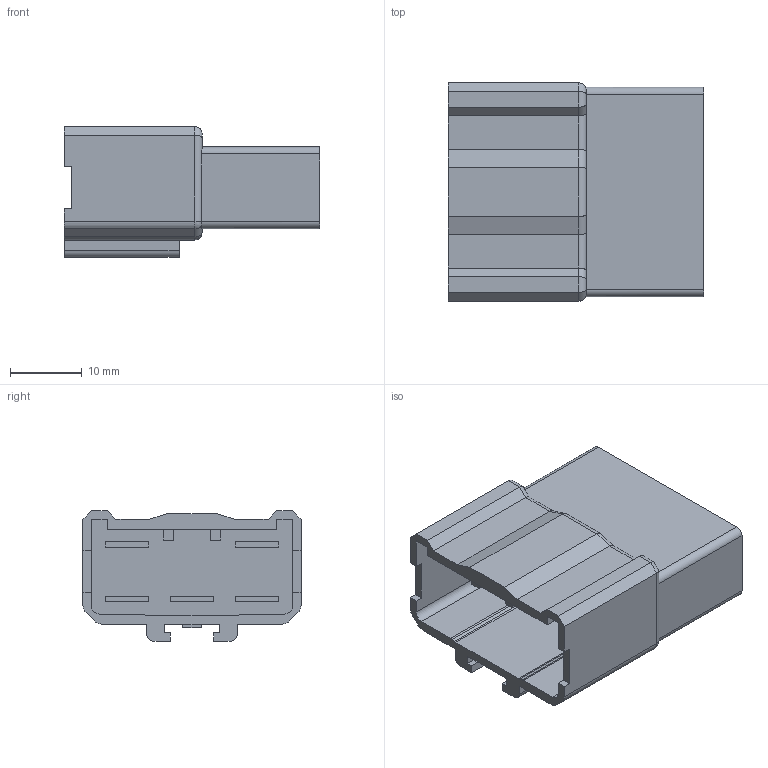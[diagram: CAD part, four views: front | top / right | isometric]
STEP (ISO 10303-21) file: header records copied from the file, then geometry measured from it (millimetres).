
FILE_DESCRIPTION(('CATIA V5 STEP Exchange'),'2;1');
FILE_NAME('N:\C-DAM_MyDesk\ENV\900093\6098-0216.stp','2013-04-04T06:23:55+00:00',('none'),('none'),'CATIA Version 5 Release 20 SP 4 (IN-10)','CATIA V5 STEP AP203','none');
FILE_SCHEMA(('CONFIG_CONTROL_DESIGN'));
Length unit declared in the file: millimetre
Products named in the file (1): 6098-0216
Bounding box: 35.6 x 30.4 x 18.2 mm (x, y, z)
Volume: 8038.2 mm3; surface area: 6013.2 mm2
Topology: 1 solids, 1 shells, 161 faces, 424 edges, 276 vertices
Faces by surface type: plane 125, cylinder 32, revolution 4
Entity records: 4718 total; most frequent: CARTESIAN_POINT 928, ORIENTED_EDGE 848, DIRECTION 628, EDGE_CURVE 424, VECTOR 362, LINE 362, VERTEX_POINT 276, EDGE_LOOP 172
